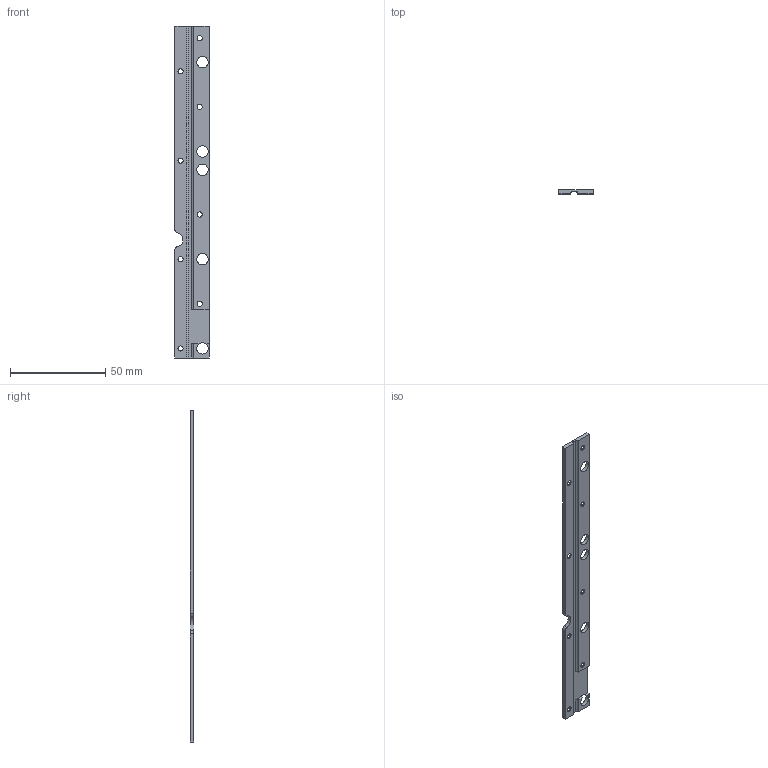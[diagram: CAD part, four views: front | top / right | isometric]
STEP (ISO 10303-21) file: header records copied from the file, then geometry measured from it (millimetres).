
FILE_DESCRIPTION(/* description */ (''),/* implementation_level */ '2;1');
FILE_NAME(/* name */ '210428_TubesOnTop_v1_lam7.stp',/* time_stamp */ '2021-09-10T14:16:53+02:00',/* author */ (''),/* organization */ (''),/* preprocessor_version */ 'ST-DEVELOPER v16.7',/* originating_system */ 'SIEMENS PLM Software NX 1919',/* authorisation */ '');
FILE_SCHEMA (('AUTOMOTIVE_DESIGN { 1 0 10303 214 3 1 1 1 }'));
Length unit declared in the file: millimetre
Products named in the file (1): 210428_TubesOnTop_v1_lam7
Bounding box: 18 x 2 x 174 mm (x, y, z)
Volume: 4811.2 mm3; surface area: 7150.9 mm2
Topology: 1 solids, 1 shells, 43 faces, 134 edges, 88 vertices
Faces by surface type: cylinder 19, plane 16, cone 8
Full cylindrical faces by diameter (mm): 2.7 x8, 6 x5
Entity records: 1357 total; most frequent: DIRECTION 235, CARTESIAN_POINT 219, ORIENTED_EDGE 200, EDGE_CURVE 100, AXIS2_PLACEMENT_3D 91, EDGE_LOOP 85, VERTEX_POINT 75, FACE_BOUND 66
